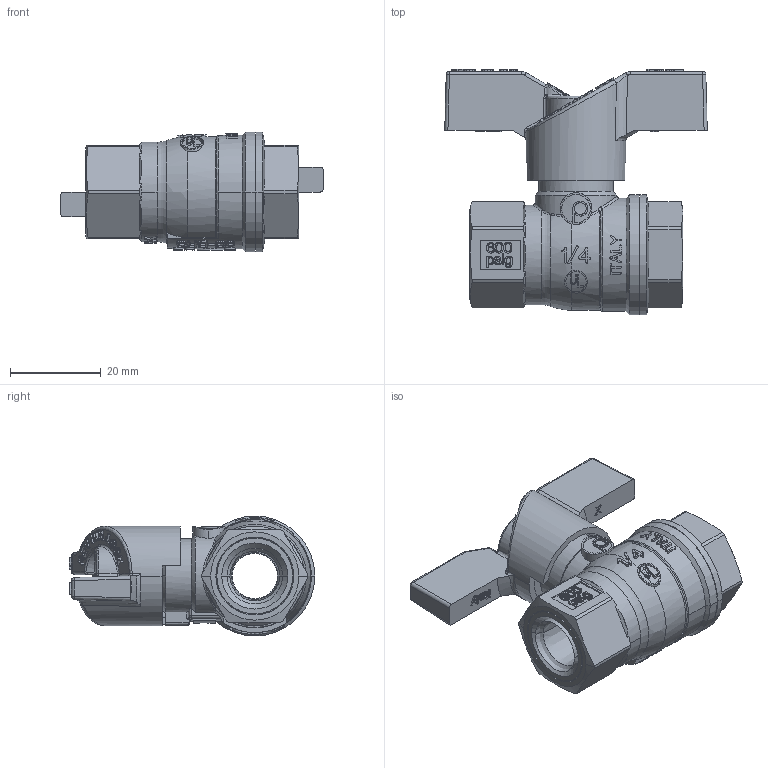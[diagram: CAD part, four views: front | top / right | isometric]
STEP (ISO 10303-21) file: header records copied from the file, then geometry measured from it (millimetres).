
FILE_DESCRIPTION((''),'2;1');
FILE_NAME('T204FF_1-4_ASM','2022-05-19T16:08:40',('Sergio.Dandrea'),(''),'CREO PARAMETRIC BY PTC INC, 2021164','CREO PARAMETRIC BY PTC INC, 2021164','');
FILE_SCHEMA(('CONFIG_CONTROL_DESIGN'));
Length unit declared in the file: millimetre
Products named in the file (11): 89078; SEDE_PTFE_F12; 87057; OR_107_AF0; OR_107_AF1; ASTA_T203FF_12_ASM; 88402; 89077; 89176; 87131; T204FF_1-4_ASM
Assembly tree (11 placements, depth 3):
  T204FF_1-4_ASM
    89078
    SEDE_PTFE_F12  x2
    ASTA_T203FF_12_ASM
      87057
      OR_107_AF0
      OR_107_AF1
    88402
    89077
    89176
    87131
Bounding box: 58 x 54.25 x 26.5 mm (x, y, z)
Volume: 23328.5 mm3; surface area: 19740.3 mm2
Topology: 10 solids, 16 shells, 1957 faces, 5279 edges, 3450 vertices
Faces by surface type: extrusion 905, plane 648, cylinder 179, cone 77, bspline 68, torus 52, revolution 16, sphere 12
Entity records: 71928 total; most frequent: CARTESIAN_POINT 27212, ORIENTED_EDGE 10470, DIRECTION 6411, EDGE_CURVE 5249, VERTEX_POINT 3434, B_SPLINE_CURVE_WITH_KNOTS 3292, VECTOR 3145, LINE 2240
